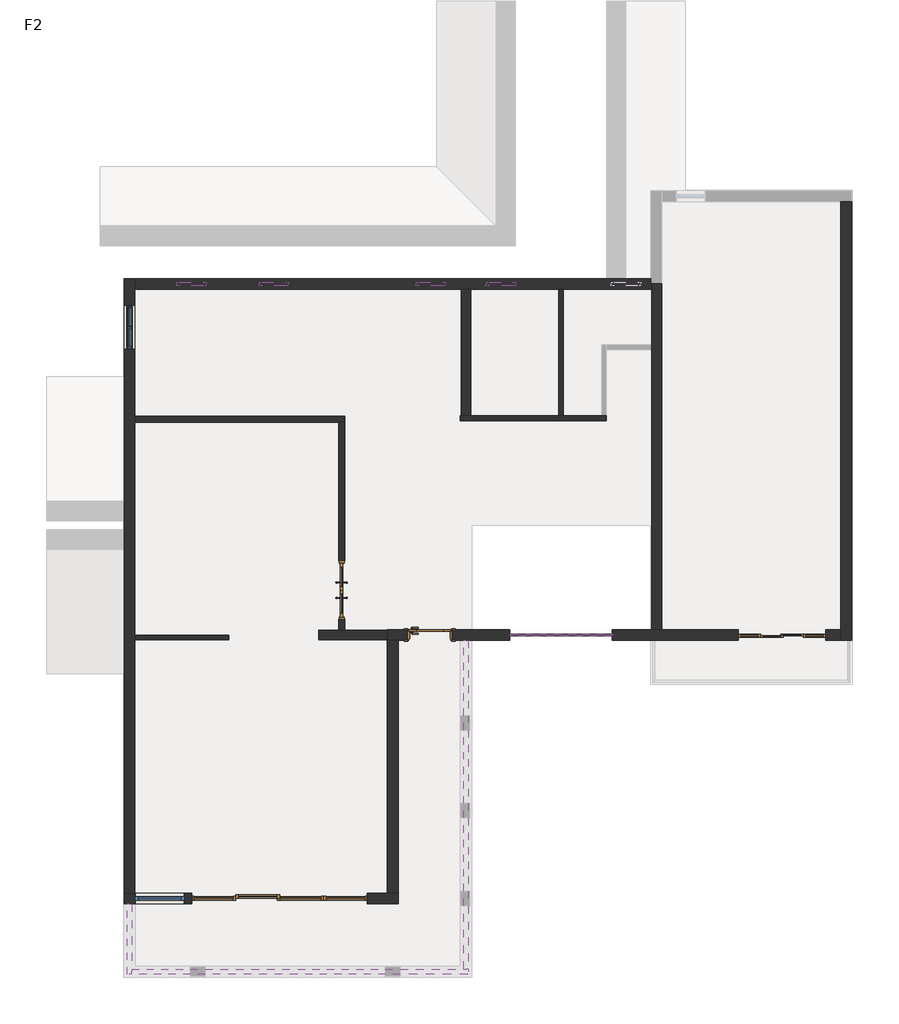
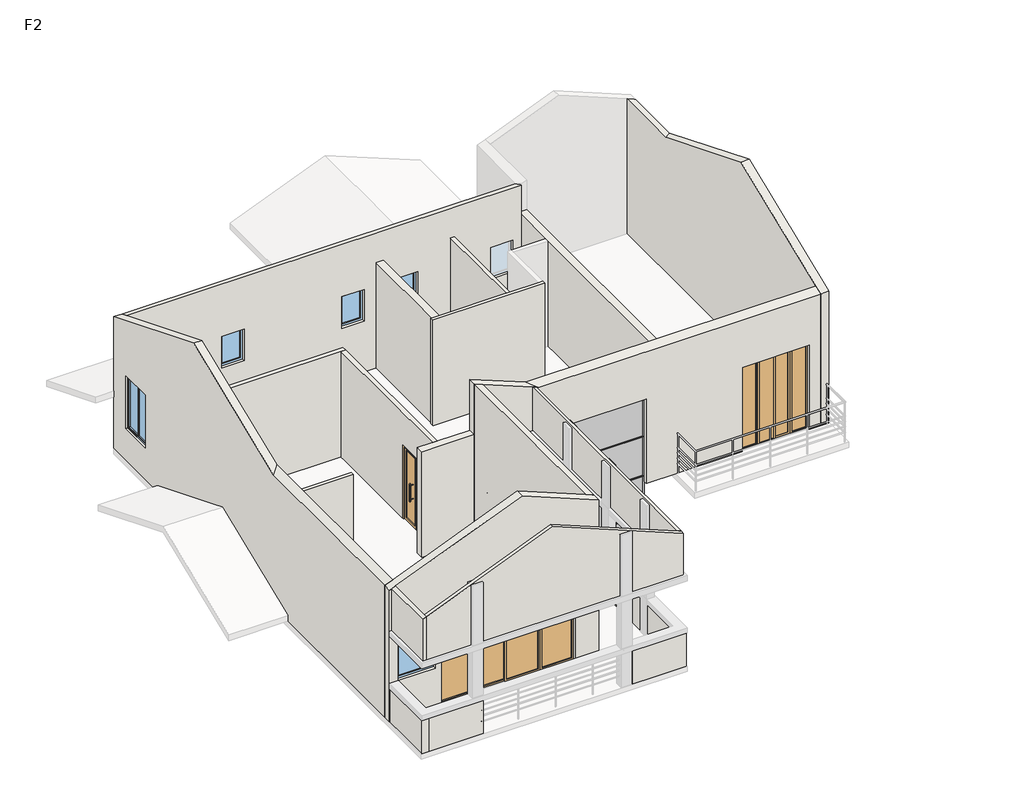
# One storey, part 1 of 2: 21 walls, 16 members, 6 windows, 5 plates, 4 doors.
"""IFC4 building model written with IfcOpenShell, lengths in millimetres."""

from ifc_helpers import new_model, si_unit, frame, origin, place, context, project, spatial, polyline, outline, extrude, faceted_brep, transform, mapped, element, save
from components import door_0924_8836e307, door_1200_x_2100mm_28484c29, ym3267_4c35834f, ym3627_ym3624_cbced519, member_36abf0b9, member_8a8b1aba, member_6a4487dd, member_cb581688, member_e9ca11cf, plate_7d49b9b0, plate_fc9b985f, c0615_c0609_9743c050, c0615_c1023_ef9932f1, c0915_c0915_c0da6e5c

model = new_model("IFC4")

# Units and contexts
model_context = context("Model", 3, world=origin())
ifc_project = project(units=[si_unit("LENGTHUNIT", "METRE", prefix="MILLI")], contexts=[model_context])

# Site, building, storey
site = spatial("IfcSite", under=ifc_project)
building = spatial("IfcBuilding", under=site)
storey = spatial("IfcBuildingStorey", under=building, Name="F2", Elevation=3300.0)

# Doors
placement = place(None, origin())
door_0924_shape = door_0924_8836e307(model_context)
element("IfcDoor", 1, ObjectType="单扇平开门-木门 : 0924", at=placement, inside=storey, context=model_context, shape_type="MappedRepresentation", body=[
    mapped(door_0924_shape, transform((-10695.9782681, -8531.0286905, 3300.0), x_axis=(1.0, 0.0, 0.0), y_axis=(0.0, 1.0, 0.0), z_axis=(0.0, 0.0, 1.0))),
])
door_1200_x_2100mm_shape = door_1200_x_2100mm_28484c29(model_context)
element("IfcDoor", 2, ObjectType="双面嵌板玻璃门 : 1200 x 2100mm", at=placement, inside=storey, context=model_context, shape_type="MappedRepresentation", body=[
    mapped(door_1200_x_2100mm_shape, transform((-12505.9782681, -7611.0286905, 3300.0), x_axis=(0.0, -1.0, 0.0), y_axis=(1.0, 0.0, 0.0), z_axis=(0.0, 0.0, 1.0))),
])
ym3267_shape = ym3267_4c35834f(model_context)
element("IfcDoor", 3, ObjectType="移门-推拉门 : YM3267", at=placement, inside=storey, context=model_context, shape_type="MappedRepresentation", body=[
    mapped(ym3267_shape, transform((-3475.9782681, -8531.0286905, 3300.0), x_axis=(-1.0, 0.0, 0.0), y_axis=(0.0, -1.0, 0.0), z_axis=(0.0, 0.0, 1.0))),
])
ym3627_ym3624_shape = ym3627_ym3624_cbced519(model_context)
element("IfcDoor", 4, ObjectType="YM3627 : YM3624", at=placement, inside=storey, context=model_context, shape_type="MappedRepresentation", body=[
    mapped(ym3627_ym3624_shape, transform((-13775.9782681, -13931.0286905, 3300.0), x_axis=(-1.0, 0.0, 0.0), y_axis=(0.0, -1.0, 0.0), z_axis=(0.0, 0.0, 1.0))),
])

# Members
member_shape = member_36abf0b9(model_context)
element("IfcMember", 5, ObjectType="矩形竖梃 : 30mm 正方形", at=placement, inside=storey, context=model_context, shape_type="MappedRepresentation", body=[
    mapped(member_shape, transform((-6985.9782681, -8531.0286905, 1235.0), x_axis=(0.0, 0.0, 1.0), y_axis=(0.0, -1.0, 0.0), z_axis=(1.0, 0.0, 0.0))),
])
element("IfcMember", 6, ObjectType="矩形竖梃 : 30mm 正方形", at=placement, inside=storey, context=model_context, shape_type="MappedRepresentation", body=[
    mapped(member_shape, transform((-6985.9782681, -8531.0286905, 2355.0), x_axis=(0.0, 0.0, 1.0), y_axis=(0.0, -1.0, 0.0), z_axis=(1.0, 0.0, 0.0))),
])
element("IfcMember", 7, ObjectType="矩形竖梃 : 30mm 正方形", at=placement, inside=storey, context=model_context, shape_type="MappedRepresentation", body=[
    mapped(member_shape, transform((-6985.9782681, -8531.0286905, 3475.0), x_axis=(0.0, 0.0, 1.0), y_axis=(0.0, -1.0, 0.0), z_axis=(1.0, 0.0, 0.0))),
])
element("IfcMember", 8, ObjectType="矩形竖梃 : 30mm 正方形", at=placement, inside=storey, context=model_context, shape_type="MappedRepresentation", body=[
    mapped(member_shape, transform((-6985.9782681, -8531.0286905, 4595.0), x_axis=(0.0, 0.0, 1.0), y_axis=(0.0, -1.0, 0.0), z_axis=(1.0, 0.0, 0.0))),
])
member_2_shape = member_8a8b1aba(model_context)
element("IfcMember", 9, ObjectType="矩形竖梃 : 30mm 正方形", at=placement, inside=storey, context=model_context, shape_type="MappedRepresentation", body=[
    mapped(member_2_shape, transform((-6985.9782681, -8531.0286905, 5700.0), x_axis=(0.0, 0.0, 1.0), y_axis=(0.0, -1.0, 0.0), z_axis=(1.0, 0.0, 0.0))),
])
element("IfcMember", 10, ObjectType="矩形竖梃 : 30mm 正方形", at=placement, inside=storey, context=model_context, shape_type="MappedRepresentation", body=[
    mapped(member_2_shape, transform((-9025.9782681, -8531.0286905, 100.0), x_axis=(0.0, 0.0, -1.0), y_axis=(0.0, -1.0, 0.0), z_axis=(-1.0, 0.0, 0.0))),
])
member_3_shape = member_6a4487dd(model_context)
element("IfcMember", 11, ObjectType="矩形竖梃 : 30mm 正方形", at=placement, inside=storey, context=model_context, shape_type="MappedRepresentation", body=[
    mapped(member_3_shape, transform((-6955.9782681, -8531.0286905, 100.0), x_axis=(1.0, 0.0, 0.0), y_axis=(0.0, -1.0, 0.0), z_axis=(0.0, 0.0, -1.0))),
])
member_4_shape = member_cb581688(model_context)
element("IfcMember", 12, ObjectType="矩形竖梃 : 30mm 正方形", at=placement, inside=storey, context=model_context, shape_type="MappedRepresentation", body=[
    mapped(member_4_shape, transform((-6955.9782681, -8531.0286905, 1235.0), x_axis=(1.0, 0.0, 0.0), y_axis=(0.0, -1.0, 0.0), z_axis=(0.0, 0.0, -1.0))),
])
element("IfcMember", 13, ObjectType="矩形竖梃 : 30mm 正方形", at=placement, inside=storey, context=model_context, shape_type="MappedRepresentation", body=[
    mapped(member_4_shape, transform((-6955.9782681, -8531.0286905, 2355.0), x_axis=(1.0, 0.0, 0.0), y_axis=(0.0, -1.0, 0.0), z_axis=(0.0, 0.0, -1.0))),
])
element("IfcMember", 14, ObjectType="矩形竖梃 : 30mm 正方形", at=placement, inside=storey, context=model_context, shape_type="MappedRepresentation", body=[
    mapped(member_4_shape, transform((-6955.9782681, -8531.0286905, 3475.0), x_axis=(1.0, 0.0, 0.0), y_axis=(0.0, -1.0, 0.0), z_axis=(0.0, 0.0, -1.0))),
])
member_5_shape = member_e9ca11cf(model_context)
element("IfcMember", 15, ObjectType="矩形竖梃 : 30mm 正方形", at=placement, inside=storey, context=model_context, shape_type="MappedRepresentation", body=[
    mapped(member_5_shape, transform((-6955.9782681, -8531.0286905, 4595.0), x_axis=(1.0, 0.0, 0.0), y_axis=(0.0, -1.0, 0.0), z_axis=(0.0, 0.0, -1.0))),
])
element("IfcMember", 16, ObjectType="矩形竖梃 : 30mm 正方形", at=placement, inside=storey, context=model_context, shape_type="MappedRepresentation", body=[
    mapped(member_5_shape, transform((-9055.9782681, -8531.0286905, 5700.0), x_axis=(-1.0, 0.0, 0.0), y_axis=(0.0, -1.0, 0.0), z_axis=(0.0, 0.0, 1.0))),
])
element("IfcMember", 17, ObjectType="矩形竖梃 : 30mm 正方形", at=placement, inside=storey, context=model_context, shape_type="MappedRepresentation", body=[
    mapped(member_3_shape, transform((-9055.9782681, -8531.0286905, 1235.0), x_axis=(-1.0, 0.0, 0.0), y_axis=(0.0, -1.0, 0.0), z_axis=(0.0, 0.0, 1.0))),
])
element("IfcMember", 18, ObjectType="矩形竖梃 : 30mm 正方形", at=placement, inside=storey, context=model_context, shape_type="MappedRepresentation", body=[
    mapped(member_4_shape, transform((-9055.9782681, -8531.0286905, 2355.0), x_axis=(-1.0, 0.0, 0.0), y_axis=(0.0, -1.0, 0.0), z_axis=(0.0, 0.0, 1.0))),
])
element("IfcMember", 19, ObjectType="矩形竖梃 : 30mm 正方形", at=placement, inside=storey, context=model_context, shape_type="MappedRepresentation", body=[
    mapped(member_4_shape, transform((-9055.9782681, -8531.0286905, 3475.0), x_axis=(-1.0, 0.0, 0.0), y_axis=(0.0, -1.0, 0.0), z_axis=(0.0, 0.0, 1.0))),
])
element("IfcMember", 20, ObjectType="矩形竖梃 : 30mm 正方形", at=placement, inside=storey, context=model_context, shape_type="MappedRepresentation", body=[
    mapped(member_4_shape, transform((-9055.9782681, -8531.0286905, 4595.0), x_axis=(-1.0, 0.0, 0.0), y_axis=(0.0, -1.0, 0.0), z_axis=(0.0, 0.0, 1.0))),
])

# Plates
plate_shape = plate_7d49b9b0(model_context)
element("IfcPlate", 21, ObjectType="系统嵌板 : 玻璃", at=placement, inside=storey, context=model_context, shape_type="MappedRepresentation", body=[
    mapped(plate_shape, transform((-8005.9782681, -8531.0286905, 130.0), x_axis=(1.0, 0.0, 0.0), y_axis=(0.0, 1.0, 0.0), z_axis=(0.0, 0.0, 1.0))),
])
element("IfcPlate", 22, ObjectType="系统嵌板 : 玻璃", at=placement, inside=storey, context=model_context, shape_type="MappedRepresentation", body=[
    mapped(plate_shape, transform((-8005.9782681, -8531.0286905, 1250.0), x_axis=(1.0, 0.0, 0.0), y_axis=(0.0, 1.0, 0.0), z_axis=(0.0, 0.0, 1.0))),
])
element("IfcPlate", 23, ObjectType="系统嵌板 : 玻璃", at=placement, inside=storey, context=model_context, shape_type="MappedRepresentation", body=[
    mapped(plate_shape, transform((-8005.9782681, -8531.0286905, 2370.0), x_axis=(1.0, 0.0, 0.0), y_axis=(0.0, 1.0, 0.0), z_axis=(0.0, 0.0, 1.0))),
])
element("IfcPlate", 24, ObjectType="系统嵌板 : 玻璃", at=placement, inside=storey, context=model_context, shape_type="MappedRepresentation", body=[
    mapped(plate_shape, transform((-8005.9782681, -8531.0286905, 3490.0), x_axis=(1.0, 0.0, 0.0), y_axis=(0.0, 1.0, 0.0), z_axis=(0.0, 0.0, 1.0))),
])
plate_2_shape = plate_fc9b985f(model_context)
element("IfcPlate", 25, ObjectType="系统嵌板 : 玻璃", at=placement, inside=storey, context=model_context, shape_type="MappedRepresentation", body=[
    mapped(plate_2_shape, transform((-8005.9782681, -8531.0286905, 4610.0), x_axis=(1.0, 0.0, 0.0), y_axis=(0.0, 1.0, 0.0), z_axis=(0.0, 0.0, 1.0))),
])

# Walls
element("IfcWall", 26, ObjectType="内部 - 砌块墙 100", at=placement, inside=storey, context=model_context, shape_type="Brep", body=[
    faceted_brep([(-16745.9782681, -4163.0286905, 3300.0), (-12567.9782681, -4163.0286905, 3300.0), (-12443.9782681, -4163.0286905, 3300.0), (-12443.9782681, -4163.0286905, 6300.0), (-12567.9782681, -4163.0286905, 6300.0), (-16745.9782681, -4163.0286905, 6300.0), (-16745.9782681, -4039.0286905, 3300.0), (-16745.9782681, -4039.0286905, 6300.0), (-12443.9782681, -4039.0286905, 6300.0), (-12443.9782681, -4039.0286905, 3300.0)], [[[0, 1, 2, 3, 4, 5]], [[6, 7, 8, 9]], [[2, 1, 0, 6, 9]], [[5, 4, 3, 8, 7]], [[0, 5, 7, 6]], [[3, 2, 9, 8]]]),
])
element("IfcWall", 27, ObjectType="内部 - 砌块墙 100", at=placement, inside=storey, context=model_context, shape_type="SweptSolid", body=[
    extrude(outline(polyline([(-8431.0286905, 6300.0), (-4163.0286905, 6300.0), (-4163.0286905, 3300.0), (-7011.0286905, 3300.0), (-7011.0286905, 5400.0), (-8211.0286905, 5400.0), (-8211.0286905, 3300.0), (-8431.0286905, 3300.0), (-8431.0286905, 6300.0)])), frame((-12567.9782681, 0.0, 0.0), z_axis=(1.0, 0.0, 0.0), x_axis=(0.0, 1.0, 0.0)), (0.0, 0.0, 1.0), 124.0),
])
element("IfcWall", 28, ObjectType="常规 - 200mm", at=placement, inside=storey, context=model_context, shape_type="Brep", body=[
    faceted_brep([(-11565.9782681, -8431.0286905, 3300.0), (-12443.9782681, -8431.0286905, 3300.0), (-12567.9782681, -8431.0286905, 3300.0), (-12975.9782681, -8431.0286905, 3300.0), (-12975.9782681, -8431.0286905, 6300.0), (-12567.9782681, -8431.0286905, 6300.0), (-12443.9782681, -8431.0286905, 6300.0), (-11565.9782681, -8431.0286905, 6300.0), (-11565.9782681, -8631.0286905, 3300.0), (-11565.9782681, -8631.0286905, 6300.0), (-12975.9782681, -8631.0286905, 6300.0), (-12975.9782681, -8631.0286905, 3300.0)], [[[0, 1, 2, 3, 4, 5, 6, 7]], [[8, 9, 10, 11]], [[3, 2, 1, 0, 8, 11]], [[4, 3, 11, 10]], [[7, 6, 5, 4, 10, 9]], [[0, 7, 9, 8]]]),
])
element("IfcWall", 29, ObjectType="常规 - 100mm 砌体", at=placement, inside=storey, context=model_context, shape_type="SweptSolid", body=[
    extrude(outline(polyline([(-16745.9782681, -8531.0286905), (-14815.9782681, -8531.0286905), (-14815.9782681, -8631.0286905), (-16745.9782681, -8631.0286905), (-16745.9782681, -8531.0286905)])), frame((0.0, 0.0, 3300.0), z_axis=(0.0, 0.0, 1.0), x_axis=(1.0, 0.0, 0.0)), (0.0, 0.0, 1.0), 3000.0),
])
element("IfcWall", 30, ObjectType="常规 - 200mm", at=placement, inside=storey, context=model_context, shape_type="SweptSolid", body=[
    extrude(outline(polyline([(-10055.9782681, -4031.0286905), (-10055.9782681, -1441.0286905), (-9855.9782681, -1441.0286905), (-9855.9782681, -4031.0286905), (-10055.9782681, -4031.0286905)])), frame((0.0, 0.0, 3300.0), z_axis=(0.0, 0.0, 1.0), x_axis=(1.0, 0.0, 0.0)), (0.0, 0.0, 1.0), 3000.0),
])
element("IfcWall", 31, ObjectType="常规 - 100mm 砌体", at=placement, inside=storey, context=model_context, shape_type="Brep", body=[
    faceted_brep([(-10075.9782681, -4131.0286905, 3300.0), (-7075.9782681, -4131.0286905, 3300.0), (-7075.9782681, -4131.0286905, 6300.0), (-10075.9782681, -4131.0286905, 6300.0), (-10075.9782681, -4031.0286905, 3300.0), (-10075.9782681, -4031.0286905, 6300.0), (-10055.9782681, -4031.0286905, 6300.0), (-9855.9782681, -4031.0286905, 6300.0), (-8055.9782681, -4031.0286905, 6300.0), (-7955.9782681, -4031.0286905, 6300.0), (-7175.9782681, -4031.0286905, 6300.0), (-7075.9782681, -4031.0286905, 6300.0), (-7075.9782681, -4031.0286905, 3300.0), (-7175.9782681, -4031.0286905, 3300.0), (-7955.9782681, -4031.0286905, 3300.0), (-8055.9782681, -4031.0286905, 3300.0), (-9855.9782681, -4031.0286905, 3300.0), (-10055.9782681, -4031.0286905, 3300.0)], [[[0, 1, 2, 3]], [[4, 5, 6, 7, 8, 9, 10, 11, 12, 13, 14, 15, 16, 17]], [[1, 0, 4, 17, 16, 15, 14, 13, 12]], [[3, 2, 11, 10, 9, 8, 7, 6, 5]], [[0, 3, 5, 4]], [[2, 1, 12, 11]]]),
])
element("IfcWall", 32, ObjectType="常规 - 200mm", at=placement, inside=storey, context=model_context, shape_type="Brep", body=[
    faceted_brep([(-5945.9782681, -8421.0286905, 3300.0), (-5945.9782681, -1331.0286905, 3300.0), (-5945.9782681, -1331.0286905, 6300.0), (-5945.9782681, -8421.0286905, 6300.0), (-6145.9782681, -8421.0286905, 3300.0), (-6145.9782681, -8421.0286905, 6300.0), (-6145.9782681, -2681.0286905, 6300.0), (-6145.9782681, -2581.0286905, 6300.0), (-6145.9782681, -1331.0286905, 6300.0), (-6145.9782681, -1331.0286905, 3300.0), (-6145.9782681, -1441.0286905, 3300.0), (-6145.9782681, -2581.0286905, 3300.0), (-6145.9782681, -2681.0286905, 3300.0)], [[[0, 1, 2, 3]], [[4, 5, 6, 7, 8, 9, 10, 11, 12]], [[1, 0, 4, 12, 11, 10, 9]], [[2, 1, 9, 8]], [[3, 2, 8, 7, 6, 5]], [[0, 3, 5, 4]]]),
])
element("IfcWall", 33, ObjectType="常规 - 100mm 砌体", at=placement, inside=storey, context=model_context, shape_type="SweptSolid", body=[
    extrude(outline(polyline([(-7955.9782681, -1441.0286905), (-7955.9782681, -4031.0286905), (-8055.9782681, -4031.0286905), (-8055.9782681, -1441.0286905), (-7955.9782681, -1441.0286905)])), frame((0.0, 0.0, 3300.0), z_axis=(0.0, 0.0, 1.0), x_axis=(1.0, 0.0, 0.0)), (0.0, 0.0, 1.0), 3000.0),
])
element("IfcWall", 34, ObjectType="常规 - 200mm", at=placement, inside=storey, context=model_context, shape_type="Brep", body=[
    faceted_brep([(-16955.9782681, -14041.0286905, 3300.0), (-16955.9782681, -15531.0286905, 3300.0), (-16955.9782681, -15531.0286905, 4250.0), (-16955.9782681, -14041.0286905, 4250.0), (-16755.9782681, -14041.0286905, 3300.0), (-16755.9782681, -14041.0286905, 4250.0), (-16755.9782681, -15331.0286905, 4250.0), (-16755.9782681, -15531.0286905, 4250.0), (-16755.9782681, -15531.0286905, 3300.0), (-16755.9782681, -15331.0286905, 3300.0)], [[[0, 1, 2, 3]], [[4, 5, 6, 7, 8, 9]], [[1, 0, 4, 9, 8]], [[3, 2, 7, 6, 5]], [[0, 3, 5, 4]], [[2, 1, 8, 7]]]),
])
element("IfcWall", 35, ObjectType="常规 - 200mm", at=placement, inside=storey, context=model_context, shape_type="Brep", body=[
    faceted_brep([(-16755.9782681, -15531.0286905, 3300.0), (-15305.9782681, -15531.0286905, 3300.0), (-15305.9782681, -15531.0286905, 4250.0), (-15605.9782681, -15531.0286905, 4250.0), (-16755.9782681, -15531.0286905, 4250.0), (-16755.9782681, -15331.0286905, 3300.0), (-16755.9782681, -15331.0286905, 4250.0), (-15605.9782681, -15331.0286905, 4250.0), (-15305.9782681, -15331.0286905, 4250.0), (-15305.9782681, -15331.0286905, 3300.0)], [[[0, 1, 2, 3, 4]], [[5, 6, 7, 8, 9]], [[1, 0, 5, 9]], [[2, 1, 9, 8]], [[4, 3, 2, 8, 7, 6]], [[0, 4, 6, 5]]]),
])
element("IfcWall", 36, ObjectType="常规 - 200mm", at=placement, inside=storey, context=model_context, shape_type="Brep", body=[
    faceted_brep([(-11305.9782681, -15531.0286905, 3300.0), (-9855.9782681, -15531.0286905, 3300.0), (-9855.9782681, -15531.0286905, 4250.0), (-11305.9782681, -15531.0286905, 4250.0), (-11305.9782681, -15331.0286905, 3300.0), (-11305.9782681, -15331.0286905, 4250.0), (-10055.9782681, -15331.0286905, 4250.0), (-9855.9782681, -15331.0286905, 4250.0), (-9855.9782681, -15331.0286905, 3300.0), (-10055.9782681, -15331.0286905, 3300.0)], [[[0, 1, 2, 3]], [[4, 5, 6, 7, 8, 9]], [[1, 0, 4, 9, 8]], [[3, 2, 7, 6, 5]], [[0, 3, 5, 4]], [[2, 1, 8, 7]]]),
])
element("IfcWall", 37, ObjectType="常规 - 200mm", at=placement, inside=storey, context=model_context, shape_type="Brep", body=[
    faceted_brep([(-9855.9782681, -15331.0286905, 3300.0), (-9855.9782681, -8641.0286905, 3300.0), (-9855.9782681, -8641.0286905, 4250.0), (-9855.9782681, -15331.0286905, 4250.0), (-10055.9782681, -15331.0286905, 3300.0), (-10055.9782681, -15331.0286905, 4250.0), (-10055.9782681, -14081.0286905, 4250.0), (-10055.9782681, -13781.0286905, 4250.0), (-10055.9782681, -12281.0286905, 4250.0), (-10055.9782681, -11981.0286905, 4250.0), (-10055.9782681, -10481.0286905, 4250.0), (-10055.9782681, -10181.0286905, 4250.0), (-10055.9782681, -8641.0286905, 4250.0), (-10055.9782681, -8641.0286905, 3300.0), (-10055.9782681, -10181.0286905, 3300.0), (-10055.9782681, -10481.0286905, 3300.0), (-10055.9782681, -11981.0286905, 3300.0), (-10055.9782681, -12281.0286905, 3300.0), (-10055.9782681, -13781.0286905, 3300.0), (-10055.9782681, -14081.0286905, 3300.0)], [[[0, 1, 2, 3]], [[4, 5, 6, 7, 8, 9, 10, 11, 12, 13, 14, 15, 16, 17, 18, 19]], [[1, 0, 4, 19, 18, 17, 16, 15, 14, 13]], [[3, 2, 12, 11, 10, 9, 8, 7, 6, 5]], [[0, 3, 5, 4]], [[2, 1, 13, 12]]]),
])
element("IfcWall", 38, ObjectType="常规 - 100", at=placement, inside=storey, context=model_context, shape_type="Brep", body=[
    faceted_brep([(-16905.9782681, -14041.0286905, 5885.0), (-16905.9782681, -15481.0286905, 5885.0), (-16905.9782681, -15481.0286905, 7069.6259408), (-16905.9782681, -14041.0286905, 7069.6259408), (-16805.9782681, -14041.0286905, 5885.0), (-16805.9782681, -14041.0286905, 7110.0285634), (-16805.9782681, -15381.0286905, 7110.0285634), (-16805.9782681, -15481.0286905, 7110.0285634), (-16805.9782681, -15481.0286905, 5885.0), (-16805.9782681, -15381.0286905, 5885.0)], [[[0, 1, 2, 3]], [[4, 5, 6, 7, 8, 9]], [[1, 0, 4, 9, 8]], [[2, 1, 8, 7]], [[3, 2, 7, 6, 5]], [[0, 3, 5, 4]]]),
])
element("IfcWall", 39, ObjectType="常规 - 100", at=placement, inside=storey, context=model_context, shape_type="Brep", body=[
    faceted_brep([(-16805.9782681, -15481.0286905, 5885.0), (-15605.9782681, -15481.0286905, 5885.0), (-15305.9782681, -15481.0286905, 5885.0), (-11605.9782681, -15481.0286905, 5885.0), (-11305.9782681, -15481.0286905, 5885.0), (-9905.9782681, -15481.0286905, 5885.0), (-9905.9782681, -15481.0286905, 7069.6259408), (-13405.9782681, -15481.0286905, 8483.7177313), (-16805.9782681, -15481.0286905, 7110.0285634), (-16805.9782681, -15381.0286905, 5885.0), (-16805.9782681, -15381.0286905, 7110.0285634), (-13405.9782681, -15381.0286905, 8483.7177313), (-10005.9782681, -15381.0286905, 7110.0285634), (-9905.9782681, -15381.0286905, 7069.6259408), (-9905.9782681, -15381.0286905, 5885.0), (-10005.9782681, -15381.0286905, 5885.0), (-11305.9782681, -15381.0286905, 5885.0), (-11605.9782681, -15381.0286905, 5885.0), (-15305.9782681, -15381.0286905, 5885.0), (-15605.9782681, -15381.0286905, 5885.0)], [[[0, 1, 2, 3, 4, 5, 6, 7, 8]], [[9, 10, 11, 12, 13, 14, 15, 16, 17, 18, 19]], [[5, 4, 3, 2, 1, 0, 9, 19, 18, 17, 16, 15, 14]], [[6, 5, 14, 13]], [[8, 7, 11, 10]], [[7, 6, 13, 12, 11]], [[0, 8, 10, 9]]]),
])
element("IfcWall", 40, ObjectType="常规 - 100", at=placement, inside=storey, context=model_context, shape_type="Brep", body=[
    faceted_brep([(-9905.9782681, -15381.0286905, 5885.0), (-9905.9782681, -14081.0286905, 5885.0), (-9905.9782681, -13781.0286905, 5885.0), (-9905.9782681, -12281.0286905, 5885.0), (-9905.9782681, -11981.0286905, 5885.0), (-9905.9782681, -10481.0286905, 5885.0), (-9905.9782681, -10181.0286905, 5885.0), (-9905.9782681, -8641.0286905, 5885.0), (-9905.9782681, -8641.0286905, 7069.6259408), (-9905.9782681, -15381.0286905, 7069.6259408), (-10005.9782681, -15381.0286905, 5885.0), (-10005.9782681, -15381.0286905, 7110.0285634), (-10005.9782681, -8641.0286905, 7110.0285634), (-10005.9782681, -8641.0286905, 5885.0), (-10005.9782681, -10181.0286905, 5885.0), (-10005.9782681, -10481.0286905, 5885.0), (-10005.9782681, -11981.0286905, 5885.0), (-10005.9782681, -12281.0286905, 5885.0), (-10005.9782681, -13781.0286905, 5885.0), (-10005.9782681, -14081.0286905, 5885.0)], [[[0, 1, 2, 3, 4, 5, 6, 7, 8, 9]], [[10, 11, 12, 13, 14, 15, 16, 17, 18, 19]], [[7, 6, 5, 4, 3, 2, 1, 0, 10, 19, 18, 17, 16, 15, 14, 13]], [[9, 8, 12, 11]], [[0, 9, 11, 10]], [[8, 7, 13, 12]]]),
])
element("IfcWall", 41, ObjectType="F2", at=placement, inside=storey, context=model_context, shape_type="Brep", body=[
    faceted_brep([(-11345.9782681, -13821.0286905, 7651.423706), (-11345.9782681, -13821.0286905, 3300.0), (-11565.9782681, -13821.0286905, 3300.0), (-11975.9782681, -13821.0286905, 3300.0), (-11975.9782681, -13821.0286905, 5700.0), (-15575.9782681, -13821.0286905, 5700.0), (-15575.9782681, -13821.0286905, 3300.0), (-16745.9782681, -13821.0286905, 3300.0), (-16965.9782681, -13821.0286905, 3300.0), (-16965.9782681, -13821.0286905, 7045.3843673), (-16745.9782681, -13821.0286905, 7134.270137), (-13405.9782681, -13821.0286905, 8483.7177313), (-11565.9782681, -13821.0286905, 7740.3094757), (-16735.9782681, -13821.0286905, 4400.0), (-15735.9782681, -13821.0286905, 4400.0), (-15735.9782681, -13821.0286905, 5700.0), (-16735.9782681, -13821.0286905, 5700.0), (-11345.9782681, -14041.0286905, 3300.0), (-11345.9782681, -14041.0286905, 7651.423706), (-13405.9782681, -14041.0286905, 8483.7177313), (-16805.9782681, -14041.0286905, 7110.0285634), (-16905.9782681, -14041.0286905, 7069.6259408), (-16965.9782681, -14041.0286905, 7045.3843673), (-16965.9782681, -14041.0286905, 3300.0), (-16955.9782681, -14041.0286905, 3300.0), (-16755.9782681, -14041.0286905, 3300.0), (-15575.9782681, -14041.0286905, 3300.0), (-15575.9782681, -14041.0286905, 5700.0), (-11975.9782681, -14041.0286905, 5700.0), (-11975.9782681, -14041.0286905, 3300.0), (-16735.9782681, -14041.0286905, 4400.0), (-16735.9782681, -14041.0286905, 5700.0), (-15735.9782681, -14041.0286905, 5700.0), (-15735.9782681, -14041.0286905, 4400.0)], [[[0, 1, 2, 3, 4, 5, 6, 7, 8, 9, 10, 11, 12], [13, 14, 15, 16]], [[17, 18, 19, 20, 21, 22, 23, 24, 25, 26, 27, 28, 29], [30, 31, 32, 33]], [[23, 8, 7, 6, 26, 25, 24]], [[1, 17, 29, 3, 2]], [[1, 0, 18, 17]], [[28, 4, 3, 29]], [[4, 28, 27, 5]], [[5, 27, 26, 6]], [[31, 30, 13, 16]], [[32, 31, 16, 15]], [[33, 32, 15, 14]], [[30, 33, 14, 13]], [[18, 0, 12, 11, 19]], [[9, 22, 21, 20, 19, 11, 10]], [[8, 23, 22, 9]]]),
])
element("IfcWall", 42, ObjectType="F2", at=placement, inside=storey, context=model_context, shape_type="Brep", body=[
    faceted_brep([(-16745.9782681, -13821.0286905, 7134.270137), (-16745.9782681, -13821.0286905, 3300.0), (-16745.9782681, -8631.0286905, 3300.0), (-16745.9782681, -8531.0286905, 3300.0), (-16745.9782681, -4163.0286905, 3300.0), (-16745.9782681, -4039.0286905, 3300.0), (-16745.9782681, -1441.0286905, 3300.0), (-16745.9782681, -1221.0286905, 3300.0), (-16745.9782681, -1221.0286905, 7045.3843673), (-16745.9782681, -1441.0286905, 7134.270137), (-16745.9782681, -4931.0286905, 8544.3216651), (-16745.9782681, -8421.0286905, 7134.270137), (-16745.9782681, -1771.0286905, 4200.0), (-16745.9782681, -2671.0286905, 4200.0), (-16745.9782681, -2671.0286905, 5700.0), (-16745.9782681, -1771.0286905, 5700.0), (-16965.9782681, -13821.0286905, 3300.0), (-16965.9782681, -13821.0286905, 7045.3843673), (-16965.9782681, -8641.0286905, 7045.3843673), (-16965.9782681, -4931.0286905, 8544.3216651), (-16965.9782681, -1221.0286905, 7045.3843673), (-16965.9782681, -1221.0286905, 3300.0), (-16965.9782681, -1771.0286905, 4200.0), (-16965.9782681, -1771.0286905, 5700.0), (-16965.9782681, -2671.0286905, 5700.0), (-16965.9782681, -2671.0286905, 4200.0)], [[[0, 1, 2, 3, 4, 5, 6, 7, 8, 9, 10, 11], [12, 13, 14, 15]], [[16, 17, 18, 19, 20, 21], [22, 23, 24, 25]], [[7, 6, 5, 4, 3, 2, 1, 16, 21]], [[8, 7, 21, 20]], [[23, 22, 12, 15]], [[24, 23, 15, 14]], [[25, 24, 14, 13]], [[22, 25, 13, 12]], [[0, 11, 18, 17]], [[11, 10, 19, 18]], [[10, 9, 8, 20, 19]], [[0, 17, 16, 1]]]),
])
element("IfcWall", 43, ObjectType="F2", at=placement, inside=storey, context=model_context, shape_type="Brep", body=[
    faceted_brep([(-16745.9782681, -1441.0286905, 3300.0), (-10055.9782681, -1441.0286905, 3300.0), (-9855.9782681, -1441.0286905, 3300.0), (-8055.9782681, -1441.0286905, 3300.0), (-7955.9782681, -1441.0286905, 3300.0), (-6145.9782681, -1441.0286905, 3300.0), (-6145.9782681, -1441.0286905, 7134.270137), (-16745.9782681, -1441.0286905, 7134.270137), (-15885.9782681, -1441.0286905, 4750.0), (-15885.9782681, -1441.0286905, 5650.0), (-15285.9782681, -1441.0286905, 5650.0), (-15285.9782681, -1441.0286905, 4750.0), (-14195.9782681, -1441.0286905, 4750.0), (-14195.9782681, -1441.0286905, 5650.0), (-13595.9782681, -1441.0286905, 5650.0), (-13595.9782681, -1441.0286905, 4750.0), (-10975.9782681, -1441.0286905, 4750.0), (-10975.9782681, -1441.0286905, 5650.0), (-10375.9782681, -1441.0286905, 5650.0), (-10375.9782681, -1441.0286905, 4750.0), (-9535.9782681, -1441.0286905, 4750.0), (-9535.9782681, -1441.0286905, 5650.0), (-8935.9782681, -1441.0286905, 5650.0), (-8935.9782681, -1441.0286905, 4750.0), (-6975.9782681, -1441.0286905, 4750.0), (-6975.9782681, -1441.0286905, 5650.0), (-6375.9782681, -1441.0286905, 5650.0), (-6375.9782681, -1441.0286905, 4750.0), (-16745.9782681, -1221.0286905, 3300.0), (-16745.9782681, -1221.0286905, 7045.3843673), (-6165.9782681, -1221.0286905, 7045.3843673), (-6165.9782681, -1221.0286905, 3300.0), (-15885.9782681, -1221.0286905, 4750.0), (-15285.9782681, -1221.0286905, 4750.0), (-15285.9782681, -1221.0286905, 5650.0), (-15885.9782681, -1221.0286905, 5650.0), (-14195.9782681, -1221.0286905, 4750.0), (-13595.9782681, -1221.0286905, 4750.0), (-13595.9782681, -1221.0286905, 5650.0), (-14195.9782681, -1221.0286905, 5650.0), (-10975.9782681, -1221.0286905, 4750.0), (-10375.9782681, -1221.0286905, 4750.0), (-10375.9782681, -1221.0286905, 5650.0), (-10975.9782681, -1221.0286905, 5650.0), (-9535.9782681, -1221.0286905, 4750.0), (-8935.9782681, -1221.0286905, 4750.0), (-8935.9782681, -1221.0286905, 5650.0), (-9535.9782681, -1221.0286905, 5650.0), (-6975.9782681, -1221.0286905, 4750.0), (-6375.9782681, -1221.0286905, 4750.0), (-6375.9782681, -1221.0286905, 5650.0), (-6975.9782681, -1221.0286905, 5650.0), (-6165.9782681, -1331.0286905, 3300.0), (-6145.9782681, -1331.0286905, 3300.0), (-6145.9782681, -1331.0286905, 6300.0), (-6145.9782681, -1331.0286905, 7089.8272521), (-6165.9782681, -1331.0286905, 7089.8272521)], [[[0, 1, 2, 3, 4, 5, 6, 7], [8, 9, 10, 11], [12, 13, 14, 15], [16, 17, 18, 19], [20, 21, 22, 23], [24, 25, 26, 27]], [[28, 29, 30, 31], [32, 33, 34, 35], [36, 37, 38, 39], [40, 41, 42, 43], [44, 45, 46, 47], [48, 49, 50, 51]], [[5, 4, 3, 2, 1, 0, 28, 31, 52, 53]], [[0, 7, 29, 28]], [[6, 5, 53, 54, 55]], [[53, 52, 56, 55, 54]], [[52, 31, 30, 56]], [[9, 8, 32, 35]], [[10, 9, 35, 34]], [[11, 10, 34, 33]], [[8, 11, 33, 32]], [[13, 12, 36, 39]], [[14, 13, 39, 38]], [[15, 14, 38, 37]], [[12, 15, 37, 36]], [[17, 16, 40, 43]], [[18, 17, 43, 42]], [[19, 18, 42, 41]], [[16, 19, 41, 40]], [[21, 20, 44, 47]], [[22, 21, 47, 46]], [[23, 22, 46, 45]], [[20, 23, 45, 44]], [[25, 24, 48, 51]], [[26, 25, 51, 50]], [[27, 26, 50, 49]], [[24, 27, 49, 48]], [[7, 6, 55, 56, 30, 29]]]),
])
element("IfcWall", 44, ObjectType="F2", at=placement, inside=storey, context=model_context, shape_type="Brep", body=[
    faceted_brep([(-2265.9782681, 358.9713095, 3300.0), (-2265.9782681, -8421.0286905, 3300.0), (-2265.9782681, -8641.0286905, 3300.0), (-2265.9782681, -8641.0286905, 7045.3843673), (-2265.9782681, -8421.0286905, 7134.270137), (-2265.9782681, -4931.0286905, 8544.3216651), (-2265.9782681, -1441.0286905, 7134.270137), (-2265.9782681, 358.9713095, 7134.270137), (-2045.9782681, 358.9713095, 3300.0), (-2045.9782681, 358.9713095, 7045.3843673), (-2045.9782681, -1221.0286905, 7045.3843673), (-2045.9782681, -4931.0286905, 8544.3216651), (-2045.9782681, -8641.0286905, 7045.3843673), (-2045.9782681, -8641.0286905, 3300.0)], [[[0, 1, 2, 3, 4, 5, 6, 7]], [[8, 9, 10, 11, 12, 13]], [[2, 1, 0, 8, 13]], [[0, 7, 9, 8]], [[3, 2, 13, 12]], [[7, 6, 10, 9]], [[6, 5, 11, 10]], [[5, 4, 3, 12, 11]]]),
])
element("IfcWall", 45, ObjectType="F2", at=placement, inside=storey, context=model_context, shape_type="Brep", body=[
    faceted_brep([(-2265.9782681, -8421.0286905, 7134.270137), (-2265.9782681, -8421.0286905, 3300.0), (-2575.9782681, -8421.0286905, 3300.0), (-2575.9782681, -8421.0286905, 5700.0), (-4375.9782681, -8421.0286905, 5700.0), (-4375.9782681, -8421.0286905, 3300.0), (-5945.9782681, -8421.0286905, 3300.0), (-6145.9782681, -8421.0286905, 3300.0), (-6165.9782681, -8421.0286905, 3300.0), (-6955.9782681, -8421.0286905, 3300.0), (-6955.9782681, -8421.0286905, 5700.0), (-9055.9782681, -8421.0286905, 5700.0), (-9055.9782681, -8421.0286905, 3300.0), (-10065.9782681, -8421.0286905, 3300.0), (-10245.9782681, -8421.0286905, 3300.0), (-10245.9782681, -8421.0286905, 5700.0), (-11145.9782681, -8421.0286905, 5700.0), (-11145.9782681, -8421.0286905, 3300.0), (-11565.9782681, -8421.0286905, 3300.0), (-11565.9782681, -8421.0286905, 7740.3094757), (-10065.9782681, -8421.0286905, 7134.270137), (-2265.9782681, -8641.0286905, 3300.0), (-2265.9782681, -8641.0286905, 7045.3843673), (-9845.9782681, -8641.0286905, 7045.3843673), (-9905.9782681, -8641.0286905, 7069.6259408), (-10005.9782681, -8641.0286905, 7110.0285634), (-11345.9782681, -8641.0286905, 7651.423706), (-11565.9782681, -8641.0286905, 7740.3094757), (-11565.9782681, -8641.0286905, 3300.0), (-11345.9782681, -8641.0286905, 3300.0), (-11145.9782681, -8641.0286905, 3300.0), (-11145.9782681, -8641.0286905, 5700.0), (-10245.9782681, -8641.0286905, 5700.0), (-10245.9782681, -8641.0286905, 3300.0), (-10055.9782681, -8641.0286905, 3300.0), (-9855.9782681, -8641.0286905, 3300.0), (-9055.9782681, -8641.0286905, 3300.0), (-9055.9782681, -8641.0286905, 5700.0), (-6955.9782681, -8641.0286905, 5700.0), (-6955.9782681, -8641.0286905, 3300.0), (-4375.9782681, -8641.0286905, 3300.0), (-4375.9782681, -8641.0286905, 5700.0), (-2575.9782681, -8641.0286905, 5700.0), (-2575.9782681, -8641.0286905, 3300.0), (-11565.9782681, -8431.0286905, 3300.0), (-11565.9782681, -8631.0286905, 3300.0)], [[[0, 1, 2, 3, 4, 5, 6, 7, 8, 9, 10, 11, 12, 13, 14, 15, 16, 17, 18, 19, 20]], [[21, 22, 23, 24, 25, 26, 27, 28, 29, 30, 31, 32, 33, 34, 35, 36, 37, 38, 39, 40, 41, 42, 43]], [[1, 0, 22, 21]], [[19, 18, 44, 45, 28, 27]], [[4, 41, 40, 5]], [[41, 4, 3, 42]], [[42, 3, 2, 43]], [[32, 15, 14, 33]], [[15, 32, 31, 16]], [[16, 31, 30, 17]], [[2, 1, 21, 43]], [[9, 8, 7, 6, 5, 40, 39]], [[10, 9, 39, 38]], [[11, 10, 38, 37]], [[12, 11, 37, 36]], [[28, 45, 44, 18, 17, 30, 29]], [[12, 36, 35, 34, 33, 14, 13]], [[22, 0, 20, 23]], [[19, 27, 26, 25, 24, 23, 20]]]),
])
element("IfcWall", 46, ObjectType="F2", at=placement, inside=storey, context=model_context, shape_type="SweptSolid", body=[
    extrude(outline(polyline([(7740.3094757, -11565.9782681), (3300.0, -11565.9782681), (3300.0, -11345.9782681), (7651.423706, -11345.9782681), (7740.3094757, -11565.9782681)])), frame((0.0, -13821.0286905, 0.0), z_axis=(0.0, 1.0, 0.0), x_axis=(0.0, 0.0, 1.0)), (0.0, 0.0, 1.0), 5180.0),
])

# Windows
c0615_c0609_shape = c0615_c0609_9743c050(model_context)
element("IfcWindow", 47, ObjectType="C0615 : C0609", at=placement, inside=storey, context=model_context, shape_type="MappedRepresentation", body=[
    mapped(c0615_c0609_shape, transform((-15585.9782681, -1331.0286905, 3300.0), x_axis=(1.0, 0.0, 0.0), y_axis=(0.0, 1.0, 0.0), z_axis=(0.0, 0.0, 1.0))),
])
element("IfcWindow", 48, ObjectType="C0615 : C0609", at=placement, inside=storey, context=model_context, shape_type="MappedRepresentation", body=[
    mapped(c0615_c0609_shape, transform((-13895.9782681, -1331.0286905, 3300.0), x_axis=(1.0, 0.0, 0.0), y_axis=(0.0, 1.0, 0.0), z_axis=(0.0, 0.0, 1.0))),
])
element("IfcWindow", 49, ObjectType="C0615 : C0609", at=placement, inside=storey, context=model_context, shape_type="MappedRepresentation", body=[
    mapped(c0615_c0609_shape, transform((-10675.9782681, -1331.0286905, 3300.0), x_axis=(1.0, 0.0, 0.0), y_axis=(0.0, 1.0, 0.0), z_axis=(0.0, 0.0, 1.0))),
])
element("IfcWindow", 50, ObjectType="C0615 : C0609", at=placement, inside=storey, context=model_context, shape_type="MappedRepresentation", body=[
    mapped(c0615_c0609_shape, transform((-9235.9782681, -1331.0286905, 3300.0), x_axis=(1.0, 0.0, 0.0), y_axis=(0.0, 1.0, 0.0), z_axis=(0.0, 0.0, 1.0))),
])
c0615_c1023_shape = c0615_c1023_ef9932f1(model_context)
element("IfcWindow", 51, ObjectType="C0615 : C1023", at=placement, inside=storey, context=model_context, shape_type="MappedRepresentation", body=[
    mapped(c0615_c1023_shape, transform((-16235.9782681, -13931.0286905, 2950.0), x_axis=(1.0, 0.0, 0.0), y_axis=(0.0, 1.0, 0.0), z_axis=(0.0, 0.0, 1.0))),
])
c0915_c0915_shape = c0915_c0915_c0da6e5c(model_context)
element("IfcWindow", 52, ObjectType="C0915 : C0915", at=placement, inside=storey, context=model_context, shape_type="MappedRepresentation", body=[
    mapped(c0915_c0915_shape, transform((-16855.9782681, -2221.0286905, 3300.0), x_axis=(0.0, -1.0, 0.0), y_axis=(1.0, 0.0, 0.0), z_axis=(0.0, 0.0, 1.0))),
])

save(model, "model.ifc")
